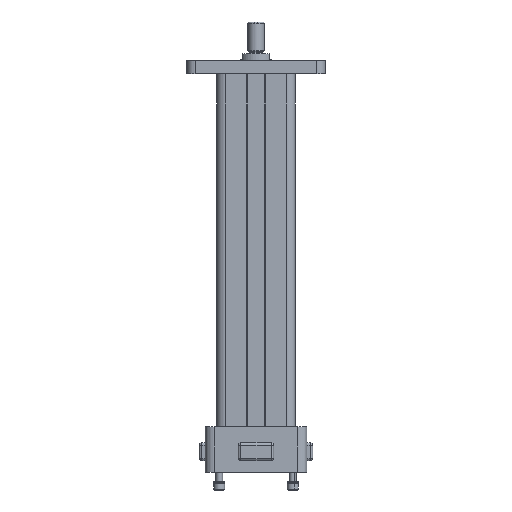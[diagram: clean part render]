
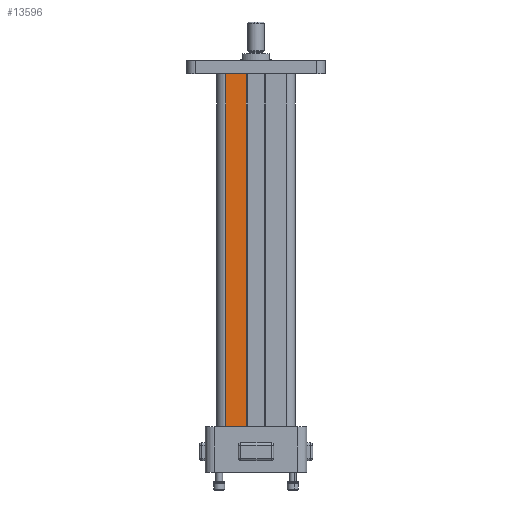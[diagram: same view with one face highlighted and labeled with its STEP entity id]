
A CAD part, front view. The second image highlights one B-rep face of the part: STEP entity #13596.
In plain terms, the highlighted planar face has unit normal (0, -1, 0) as drawn and (1, 0, 0) by its records, which use the part's own axes.
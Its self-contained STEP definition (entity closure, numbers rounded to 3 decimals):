
#7990 = EDGE_CURVE ( 'NONE', #8080, #8011, #49047, .T. ) ;
#8011 = VERTEX_POINT ( 'NONE', #49183 ) ;
#8080 = VERTEX_POINT ( 'NONE', #49408 ) ;
#8398 = VERTEX_POINT ( 'NONE', #50476 ) ;
#8427 = VERTEX_POINT ( 'NONE', #50672 ) ;
#8458 = EDGE_CURVE ( 'NONE', #8398, #8427, #50703, .T. ) ;
#13526 = ORIENTED_EDGE ( 'NONE', *, *, #13536, .T. ) ;
#13531 = ORIENTED_EDGE ( 'NONE', *, *, #7990, .T. ) ;
#13536 = EDGE_CURVE ( 'NONE', #8398, #8080, #53980, .T. ) ;
#13538 = ORIENTED_EDGE ( 'NONE', *, *, #13597, .F. ) ;
#13594 = EDGE_LOOP ( 'NONE', ( #13531, #13538, #13600, #13526 ) ) ;
#13596 = ADVANCED_FACE ( 'NONE', ( #54047 ), #54080, .F. ) ;
#13597 = EDGE_CURVE ( 'NONE', #8427, #8011, #54085, .T. ) ;
#13600 = ORIENTED_EDGE ( 'NONE', *, *, #8458, .F. ) ;
#49046 = CARTESIAN_POINT ( 'NONE',  ( 1.105, -0.865, 0. ) ) ;
#49047 = LINE ( 'NONE', #49046, #49122 ) ;
#49121 = DIRECTION ( 'NONE',  ( 0., 1., 0. ) ) ;
#49122 = VECTOR ( 'NONE', #49121, 39.37 ) ;
#49183 = CARTESIAN_POINT ( 'NONE',  ( 1.105, -0.28, 0. ) ) ;
#49408 = CARTESIAN_POINT ( 'NONE',  ( 1.105, -0.865, 0. ) ) ;
#50476 = CARTESIAN_POINT ( 'NONE',  ( 1.105, -0.865, 9.996 ) ) ;
#50672 = CARTESIAN_POINT ( 'NONE',  ( 1.105, -0.28, 9.996 ) ) ;
#50702 = CARTESIAN_POINT ( 'NONE',  ( 1.105, -0.865, 9.996 ) ) ;
#50703 = LINE ( 'NONE', #50702, #50775 ) ;
#50774 = DIRECTION ( 'NONE',  ( 0., 1., 0. ) ) ;
#50775 = VECTOR ( 'NONE', #50774, 39.37 ) ;
#53980 = LINE ( 'NONE', #53982, #54041 ) ;
#53982 = CARTESIAN_POINT ( 'NONE',  ( 1.105, -0.865, 9.996 ) ) ;
#54040 = DIRECTION ( 'NONE',  ( 0., 0., -1. ) ) ;
#54041 = VECTOR ( 'NONE', #54040, 39.37 ) ;
#54047 = FACE_OUTER_BOUND ( 'NONE', #13594, .T. ) ;
#54076 = DIRECTION ( 'NONE',  ( 0., 0., -1. ) ) ;
#54077 = DIRECTION ( 'NONE',  ( 0., -1., 0. ) ) ;
#54078 = DIRECTION ( 'NONE',  ( -1., 0., 0. ) ) ;
#54080 = PLANE ( 'NONE',  #54092 ) ;
#54083 = VECTOR ( 'NONE', #54076, 39.37 ) ;
#54084 = CARTESIAN_POINT ( 'NONE',  ( 1.105, -0.28, 9.996 ) ) ;
#54085 = LINE ( 'NONE', #54084, #54083 ) ;
#54092 = AXIS2_PLACEMENT_3D ( 'NONE', #54095, #54078, #54077 ) ;
#54095 = CARTESIAN_POINT ( 'NONE',  ( 1.105, -0.865, 9.996 ) ) ;
